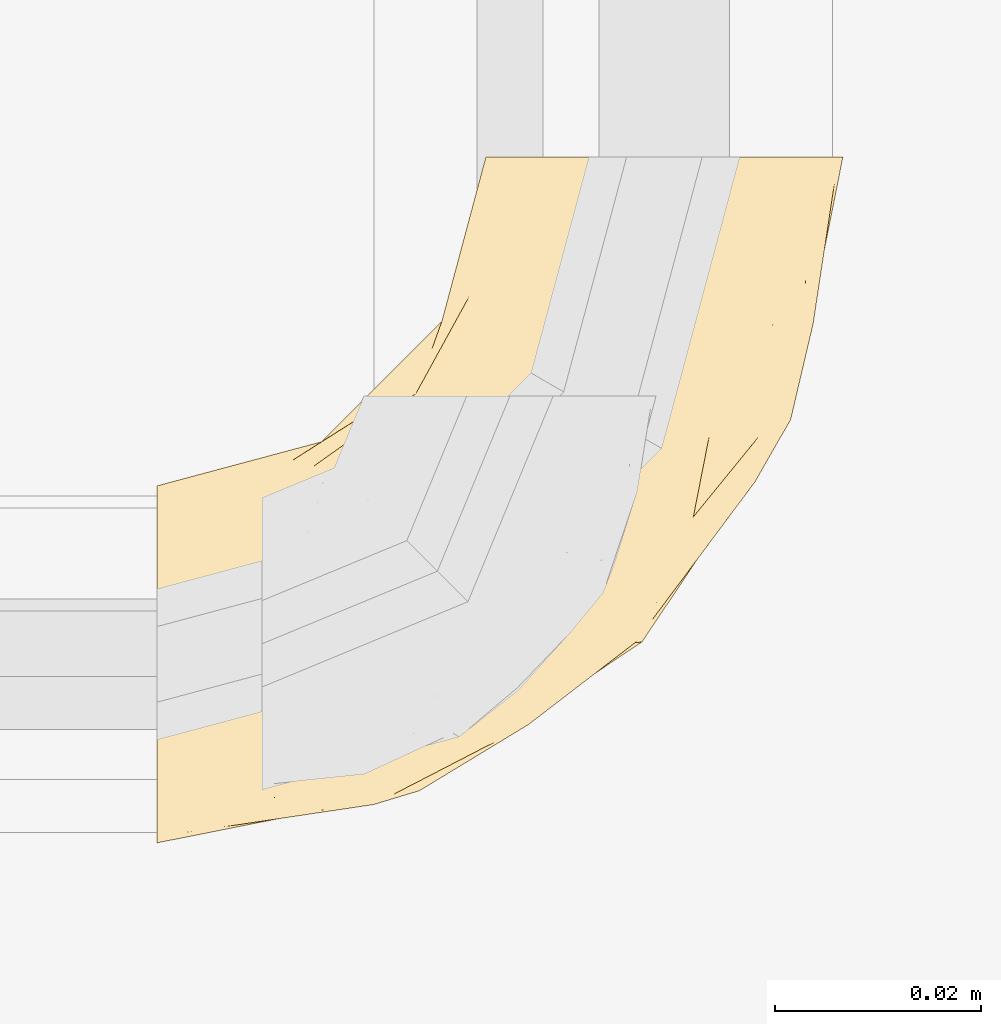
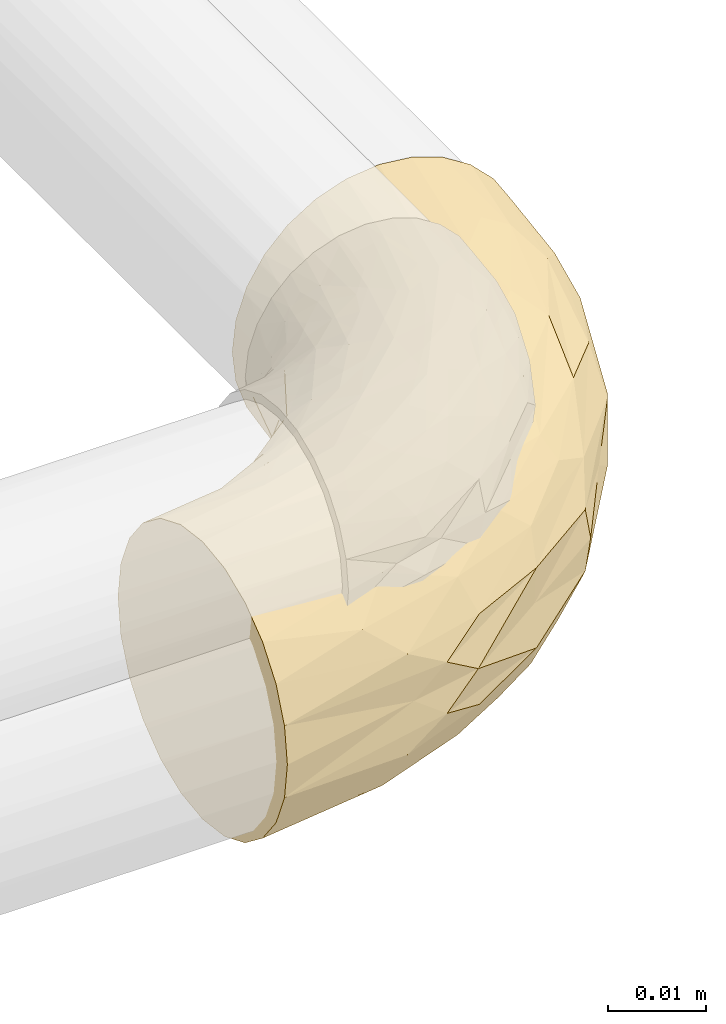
# One storey, part 7 of 32: 1 covering.
"""IFC2X3 building model written with IfcOpenShell, lengths in metres."""

from ifc_helpers import new_model, entity, si_unit, converted_unit, derived_unit, direction, frame, origin, place, context, subcontext, project, spatial, faceted_brep, material, type_object, element, save


model = new_model("IFC2X3")

# Units and contexts
model_context = context("Model", 3, precision=1e-05, world=origin(), true_north=direction((6.123031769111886e-17, 1.0)))
body_context = subcontext(model_context, "Body", "Model", "MODEL_VIEW")
ifc_project = project(units=[si_unit("LENGTHUNIT", "METRE"), si_unit("AREAUNIT", "SQUARE_METRE"), si_unit("VOLUMEUNIT", "CUBIC_METRE"), converted_unit("PLANEANGLEUNIT", "DEGREE", entity("IfcPlaneAngleMeasure", 0.017453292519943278), si_unit("PLANEANGLEUNIT", "RADIAN"), dimensions=[0, 0, 0, 0, 0, 0, 0]), si_unit("MASSUNIT", "GRAM", prefix="KILO"), derived_unit("MASSDENSITYUNIT", [(si_unit("MASSUNIT", "GRAM", prefix="KILO"), 1), (si_unit("LENGTHUNIT", "METRE"), -3)]), derived_unit("IONCONCENTRATIONUNIT", [(si_unit("MASSUNIT", "GRAM", prefix="KILO"), 1), (si_unit("LENGTHUNIT", "METRE"), -3)]), derived_unit("MOMENTOFINERTIAUNIT", [(si_unit("LENGTHUNIT", "METRE"), 4)]), si_unit("TIMEUNIT", "SECOND"), si_unit("FREQUENCYUNIT", "HERTZ"), si_unit("THERMODYNAMICTEMPERATUREUNIT", "DEGREE_CELSIUS"), derived_unit("THERMALTRANSMITTANCEUNIT", [(si_unit("MASSUNIT", "GRAM", prefix="KILO"), 1), (si_unit("THERMODYNAMICTEMPERATUREUNIT", "KELVIN"), -1), (si_unit("TIMEUNIT", "SECOND"), -3)]), derived_unit("THERMALCONDUCTANCEUNIT", [(si_unit("MASSUNIT", "GRAM", prefix="KILO"), 1), (si_unit("THERMODYNAMICTEMPERATUREUNIT", "KELVIN"), -1), (si_unit("TIMEUNIT", "SECOND"), -3), (si_unit("LENGTHUNIT", "METRE"), 1)]), derived_unit("VOLUMETRICFLOWRATEUNIT", [(si_unit("LENGTHUNIT", "METRE", prefix="DECI"), 3), (si_unit("TIMEUNIT", "SECOND"), -1)]), derived_unit("MASSFLOWRATEUNIT", [(si_unit("MASSUNIT", "GRAM", prefix="KILO"), 1), (si_unit("TIMEUNIT", "SECOND"), -1)]), derived_unit("ROTATIONALFREQUENCYUNIT", [(si_unit("TIMEUNIT", "SECOND"), -1)]), si_unit("ELECTRICCURRENTUNIT", "AMPERE"), si_unit("ELECTRICVOLTAGEUNIT", "VOLT"), si_unit("POWERUNIT", "WATT"), si_unit("FORCEUNIT", "NEWTON", prefix="KILO"), si_unit("ILLUMINANCEUNIT", "LUX"), si_unit("LUMINOUSFLUXUNIT", "LUMEN"), si_unit("LUMINOUSINTENSITYUNIT", "CANDELA"), si_unit("ENERGYUNIT", "JOULE"), derived_unit("USERDEFINED", [(si_unit("MASSUNIT", "GRAM", prefix="KILO"), -1), (si_unit("LENGTHUNIT", "METRE"), -2), (si_unit("TIMEUNIT", "SECOND"), 3), (si_unit("LUMINOUSFLUXUNIT", "LUMEN"), 1)]), derived_unit("USERDEFINED", [(si_unit("MASSUNIT", "GRAM", prefix="KILO"), 1), (si_unit("TIMEUNIT", "SECOND"), -3), (si_unit("LENGTHUNIT", "METRE"), 3), (si_unit("ELECTRICCURRENTUNIT", "AMPERE"), -2)]), derived_unit("SOUNDPOWERUNIT", [(si_unit("MASSUNIT", "GRAM", prefix="KILO"), 1), (si_unit("TIMEUNIT", "SECOND"), -3), (si_unit("LENGTHUNIT", "METRE"), 2)]), derived_unit("SOUNDPRESSUREUNIT", [(si_unit("MASSUNIT", "GRAM", prefix="KILO"), 1), (si_unit("LENGTHUNIT", "METRE"), -1), (si_unit("TIMEUNIT", "SECOND"), -2)]), derived_unit("LINEARVELOCITYUNIT", [(si_unit("LENGTHUNIT", "METRE"), 1), (si_unit("TIMEUNIT", "SECOND"), -1)]), si_unit("PRESSUREUNIT", "PASCAL"), derived_unit("USERDEFINED", [(si_unit("MASSUNIT", "GRAM", prefix="KILO"), 1), (si_unit("LENGTHUNIT", "METRE"), -2), (si_unit("TIMEUNIT", "SECOND"), -2)]), derived_unit("LINEARFORCEUNIT", [(si_unit("MASSUNIT", "GRAM", prefix="KILO"), 1), (si_unit("TIMEUNIT", "SECOND"), -2)]), derived_unit("PLANARFORCEUNIT", [(si_unit("MASSUNIT", "GRAM", prefix="KILO"), 1), (si_unit("LENGTHUNIT", "METRE"), -1), (si_unit("TIMEUNIT", "SECOND"), -2)]), derived_unit("SPECIFICHEATCAPACITYUNIT", [(si_unit("THERMODYNAMICTEMPERATUREUNIT", "KELVIN"), -1), (si_unit("LENGTHUNIT", "METRE"), 2), (si_unit("TIMEUNIT", "SECOND"), -2)]), derived_unit("HEATFLUXDENSITYUNIT", [(si_unit("MASSUNIT", "GRAM", prefix="KILO"), 1), (si_unit("TIMEUNIT", "SECOND"), -3)]), derived_unit("HEATINGVALUEUNIT", [(si_unit("LENGTHUNIT", "METRE"), 2), (si_unit("TIMEUNIT", "SECOND"), -2)]), derived_unit("VAPORPERMEABILITYUNIT", [(si_unit("LENGTHUNIT", "METRE"), -1), (si_unit("TIMEUNIT", "SECOND"), 1)]), derived_unit("DYNAMICVISCOSITYUNIT", [(si_unit("MASSUNIT", "GRAM", prefix="KILO"), 1), (si_unit("TIMEUNIT", "SECOND"), -1), (si_unit("LENGTHUNIT", "METRE"), -1)]), derived_unit("THERMALEXPANSIONCOEFFICIENTUNIT", [(si_unit("THERMODYNAMICTEMPERATUREUNIT", "KELVIN"), -1)]), derived_unit("MODULUSOFELASTICITYUNIT", [(si_unit("MASSUNIT", "GRAM", prefix="KILO"), 1), (si_unit("LENGTHUNIT", "METRE"), -1), (si_unit("TIMEUNIT", "SECOND"), -2)]), derived_unit("ISOTHERMALMOISTURECAPACITYUNIT", [(si_unit("MASSUNIT", "GRAM", prefix="KILO"), -1), (si_unit("LENGTHUNIT", "METRE"), 3)]), derived_unit("MOISTUREDIFFUSIVITYUNIT", [(si_unit("TIMEUNIT", "SECOND"), -1), (si_unit("LENGTHUNIT", "METRE"), 2)]), derived_unit("MASSPERLENGTHUNIT", [(si_unit("MASSUNIT", "GRAM", prefix="KILO"), 1), (si_unit("LENGTHUNIT", "METRE"), -1)]), derived_unit("THERMALRESISTANCEUNIT", [(si_unit("MASSUNIT", "GRAM", prefix="KILO"), -1), (si_unit("TIMEUNIT", "SECOND"), 3), (si_unit("THERMODYNAMICTEMPERATUREUNIT", "KELVIN"), 1)]), derived_unit("ACCELERATIONUNIT", [(si_unit("LENGTHUNIT", "METRE"), 1), (si_unit("TIMEUNIT", "SECOND"), -2)]), derived_unit("ANGULARVELOCITYUNIT", [(si_unit("TIMEUNIT", "SECOND"), -1), (si_unit("PLANEANGLEUNIT", "RADIAN"), 1)]), derived_unit("LINEARSTIFFNESSUNIT", [(si_unit("MASSUNIT", "GRAM", prefix="KILO"), 1), (si_unit("TIMEUNIT", "SECOND"), -2)]), derived_unit("WARPINGCONSTANTUNIT", [(si_unit("LENGTHUNIT", "METRE"), 6)]), derived_unit("LINEARMOMENTUNIT", [(si_unit("MASSUNIT", "GRAM", prefix="KILO"), 1), (si_unit("LENGTHUNIT", "METRE"), 1), (si_unit("TIMEUNIT", "SECOND"), -2)]), derived_unit("TORQUEUNIT", [(si_unit("MASSUNIT", "GRAM", prefix="KILO"), 1), (si_unit("LENGTHUNIT", "METRE"), 2), (si_unit("TIMEUNIT", "SECOND"), -2)])], contexts=[model_context])

# Site, building, storey
site_placement = place(None, origin())
site = spatial("IfcSite", under=ifc_project, at=site_placement, Name="Default", CompositionType="ELEMENT")
building_placement = place(site_placement, origin())
building = spatial("IfcBuilding", under=site, at=building_placement, CompositionType="ELEMENT")
storey_placement = place(building_placement, origin())
storey = spatial("IfcBuildingStorey", under=building, at=storey_placement, Name="Niveau 0", CompositionType="ELEMENT", Elevation=-1.949160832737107e-14)

# Covering
ifc_material = material(Name="Matériau du rendu 255-255-255")
covering_type = type_object("IfcCoveringType", Name="Isolation des canalisations:Par défaut", PredefinedType="INSULATION")
covering_placement = place(storey_placement, frame((-13.611196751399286, 1.3561078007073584, -0.433945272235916)))
element("IfcCovering", 1, at=covering_placement, inside=storey, type_object=covering_type, material=ifc_material, Name="Isolation des canalisations:Par défaut", ObjectType="Isolation des canalisations:Par défaut", PredefinedType="INSULATION", context=body_context, shape_type="Brep", body=[
    faceted_brep([(0.050895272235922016, 0.06824527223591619, 0.03629527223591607), (0.054757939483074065, 0.06824527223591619, 0.0358598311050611), (0.05842589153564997, 0.06824527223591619, 0.034575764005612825), (0.06171546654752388, 0.06824527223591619, 0.03250793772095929), (0.06446206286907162, 0.06824527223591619, 0.029760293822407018), (0.06652829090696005, 0.06824527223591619, 0.02647064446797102), (0.06781077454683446, 0.06824527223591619, 0.02280380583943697), (0.0682452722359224, 0.06824527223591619, 0.018945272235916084), (0.06780983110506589, 0.06824527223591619, 0.015082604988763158), (0.06652576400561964, 0.06824527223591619, 0.011414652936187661), (0.06445793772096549, 0.06824527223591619, 0.008125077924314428), (0.06171029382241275, 0.06824527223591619, 0.005378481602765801), (0.058420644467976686, 0.06824527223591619, 0.0033122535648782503), (0.05475380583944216, 0.06824527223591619, 0.0020297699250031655), (0.050895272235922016, 0.06824527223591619, 0.0015952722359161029), (0.04703260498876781, 0.06824527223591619, 0.0020307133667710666), (0.04336465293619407, 0.06824527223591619, 0.003314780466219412), (0.04007507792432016, 0.06824527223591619, 0.0053826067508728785), (0.03732848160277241, 0.06824527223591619, 0.008130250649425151), (0.03526225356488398, 0.06824527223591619, 0.011419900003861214), (0.033979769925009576, 0.06824527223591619, 0.015086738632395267), (0.03354527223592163, 0.06824527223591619, 0.01894527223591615), (0.03398071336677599, 0.06824527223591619, 0.022807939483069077), (0.0352647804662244, 0.06824527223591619, 0.026475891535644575), (0.037332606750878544, 0.06824527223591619, 0.029765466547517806), (0.04008025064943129, 0.06824527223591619, 0.03251206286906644), (0.043369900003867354, 0.06824527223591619, 0.03457829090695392), (0.047036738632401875, 0.06824527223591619, 0.035860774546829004), (0.001595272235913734, 0.03570408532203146, 0.014454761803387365), (0.001595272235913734, 0.033970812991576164, 0.010270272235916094), (0.001595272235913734, 0.03121357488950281, 0.006676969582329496), (0.001595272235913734, 0.02762027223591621, 0.0039197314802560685), (0.001595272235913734, 0.023435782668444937, 0.00218645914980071), (0.001595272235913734, 0.018945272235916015, 0.0015952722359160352), (0.001595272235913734, 0.014454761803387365, 0.00218645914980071), (0.001595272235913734, 0.010270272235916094, 0.0039197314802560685), (0.001595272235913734, 0.006676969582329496, 0.006676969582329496), (0.001595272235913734, 0.003919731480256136, 0.010270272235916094), (0.001595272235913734, 0.0021864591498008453, 0.014454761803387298), (0.001595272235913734, 0.0015952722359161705, 0.018945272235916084), (0.001595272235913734, 0.0021864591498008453, 0.023435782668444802), (0.001595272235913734, 0.003919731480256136, 0.027620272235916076), (0.001595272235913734, 0.006676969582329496, 0.031213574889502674), (0.001595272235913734, 0.010270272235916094, 0.03397081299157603), (0.001595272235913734, 0.014454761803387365, 0.03570408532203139), (0.001595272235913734, 0.018945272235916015, 0.03629527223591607), (0.001595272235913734, 0.023435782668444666, 0.03570408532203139), (0.001595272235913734, 0.02762027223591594, 0.0339708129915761), (0.001595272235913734, 0.03121357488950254, 0.031213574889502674), (0.001595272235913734, 0.033970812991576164, 0.027620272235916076), (0.001595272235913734, 0.03570408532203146, 0.02343578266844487), (0.001595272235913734, 0.03629527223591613, 0.018945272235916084), (0.04461060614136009, 0.024367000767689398, 0.031334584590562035), (0.05520607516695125, 0.040880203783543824, 0.032451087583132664), (0.04662716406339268, 0.031240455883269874, 0.03378706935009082), (0.022635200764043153, 0.005317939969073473, 0.022149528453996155), (0.018502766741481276, 0.004958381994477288, 0.018945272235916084), (0.027101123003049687, 0.006668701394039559, 0.018945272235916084), (0.026428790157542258, 0.009728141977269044, 0.02881601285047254), (0.034746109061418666, 0.015760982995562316, 0.030682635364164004), (0.02724880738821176, 0.01420681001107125, 0.03274319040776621), (0.017647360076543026, 0.004776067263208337, 0.02524054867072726), (0.013004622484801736, 0.005987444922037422, 0.029200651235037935), (0.042951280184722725, 0.03372303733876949, 0.03568226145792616), (0.03645563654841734, 0.03338490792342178, 0.03629527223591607), (0.03141249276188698, 0.024904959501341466, 0.03597727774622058), (0.06144561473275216, 0.05201300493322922, 0.03075267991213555), (0.05371291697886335, 0.033276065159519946, 0.029890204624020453), (0.018347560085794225, 0.017585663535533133, 0.035814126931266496), (0.026339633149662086, 0.01667542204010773, 0.0343928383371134), (0.05971173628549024, 0.036692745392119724, 0.02316390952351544), (0.0653551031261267, 0.05204597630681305, 0.02435364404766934), (0.05992934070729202, 0.04090792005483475, 0.02745100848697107), (0.017676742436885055, 0.010004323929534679, 0.032262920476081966), (0.0471425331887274, 0.0493789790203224, 0.03629527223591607), (0.04179908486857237, 0.041381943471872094, 0.03629527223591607), (0.01316791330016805, 0.013063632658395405, 0.03478404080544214), (0.03768974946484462, 0.013097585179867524, 0.023959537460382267), (0.04805807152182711, 0.021058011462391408, 0.022772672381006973), (0.05009999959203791, 0.02491877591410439, 0.02624933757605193), (0.06570855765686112, 0.05549234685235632, 0.01894527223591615), (0.0383757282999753, 0.015418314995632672, 0.02754290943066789), (0.02804202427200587, 0.008103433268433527, 0.02460805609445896), (0.06459915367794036, 0.05599549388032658, 0.027861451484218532), (0.06317184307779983, 0.04273942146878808, 0.018945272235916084), (0.04921371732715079, 0.059791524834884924, 0.03629527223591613), (0.0517926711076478, 0.05151216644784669, 0.03591493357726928), (0.05932311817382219, 0.05592114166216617, 0.03331102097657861), (0.03696754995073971, 0.024527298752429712, 0.03484866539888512), (0.05614202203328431, 0.05642461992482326, 0.035026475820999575), (0.03623295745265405, 0.020046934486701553, 0.0330855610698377), (0.05241841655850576, 0.04390302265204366, 0.03479750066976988), (0.028458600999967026, 0.028041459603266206, 0.03629527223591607), (0.020461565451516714, 0.022698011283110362, 0.03629527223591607), (0.04901890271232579, 0.05881212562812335, 0.03629527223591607), (0.05594789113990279, 0.03192801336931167, 0.018945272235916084), (0.04575145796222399, 0.0225377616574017, 0.028838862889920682), (0.03791253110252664, 0.01389265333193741, 0.018945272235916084), (0.010049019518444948, 0.020626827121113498, 0.03629527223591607), (0.04872393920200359, 0.021116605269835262, 0.018945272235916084), (0.03562046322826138, 0.06012681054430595, 0.028741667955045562), (0.012762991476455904, 0.02554511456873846, 0.03550907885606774), (0.020812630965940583, 0.03816302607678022, 0.02971422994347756), (0.012286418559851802, 0.03369863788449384, 0.030278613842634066), (0.022511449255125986, 0.03585312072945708, 0.03257014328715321), (0.04260303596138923, 0.04758380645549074, 0.03596260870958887), (0.0453997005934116, 0.05793604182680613, 0.035754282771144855), (0.04014164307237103, 0.05179104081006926, 0.03464339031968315), (0.02204334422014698, 0.027448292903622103, 0.0359036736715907), (0.01760257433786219, 0.031246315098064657, 0.033786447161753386), (0.031224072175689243, 0.05558856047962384, 0.021988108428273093), (0.03344901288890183, 0.0610921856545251, 0.023813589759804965), (0.03132557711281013, 0.05996125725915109, 0.01894527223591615), (0.0342289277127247, 0.04550906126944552, 0.03344556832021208), (0.03727571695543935, 0.041544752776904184, 0.035636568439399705), (0.00888733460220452, 0.02949372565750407, 0.03321547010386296), (0.014357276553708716, 0.03852252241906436, 0.022634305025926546), (0.009879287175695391, 0.038514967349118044, 0.01894527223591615), (0.00758599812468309, 0.03659242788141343, 0.021964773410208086), (0.037997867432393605, 0.057971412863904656, 0.03195826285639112), (0.033044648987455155, 0.05019700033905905, 0.03039020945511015), (0.009229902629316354, 0.03603849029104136, 0.02515495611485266), (0.0167708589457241, 0.038175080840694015, 0.026502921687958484), (0.041766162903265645, 0.06050425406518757, 0.03413176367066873), (0.026739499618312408, 0.04525391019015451, 0.02725796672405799), (0.027451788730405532, 0.04141450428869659, 0.0314395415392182), (0.0292647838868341, 0.05227027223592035, 0.01894527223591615), (0.023249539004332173, 0.04415845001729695, 0.022825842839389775), (0.017570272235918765, 0.04057576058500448, 0.01894527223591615), (0.028875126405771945, 0.03407046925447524, 0.03537608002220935), (0.031890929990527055, 0.05464264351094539, 0.025434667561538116), (0.028265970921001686, 0.04949521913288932, 0.023656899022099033), (0.02341752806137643, 0.04642301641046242, 0.01894527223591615), (0.029179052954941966, 0.03870099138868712, 0.03385023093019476), (0.012286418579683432, 0.03369863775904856, 0.00761193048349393), (0.03561656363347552, 0.06012621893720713, 0.009154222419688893), (0.03799129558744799, 0.05796574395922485, 0.0059365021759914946), (0.0075859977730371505, 0.036592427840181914, 0.01592577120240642), (0.04259271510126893, 0.047594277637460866, 0.001930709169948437), (0.04179908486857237, 0.041381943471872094, 0.0015952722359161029), (0.03724696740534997, 0.04154972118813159, 0.002261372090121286), (0.033036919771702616, 0.05019606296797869, 0.007507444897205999), (0.027451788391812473, 0.04141450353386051, 0.006451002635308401), (0.029189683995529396, 0.03870907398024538, 0.004039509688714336), (0.022521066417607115, 0.035853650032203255, 0.005316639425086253), (0.03344737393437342, 0.06109515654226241, 0.014084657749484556), (0.028875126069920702, 0.03407046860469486, 0.0025144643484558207), (0.022043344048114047, 0.027448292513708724, 0.0019868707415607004), (0.01760257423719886, 0.03124631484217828, 0.004104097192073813), (0.012762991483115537, 0.02554511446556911, 0.002381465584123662), (0.010049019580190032, 0.020626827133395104, 0.0015952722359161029), (0.04175980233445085, 0.06049677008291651, 0.0037614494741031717), (0.04539407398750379, 0.057931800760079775, 0.002137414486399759), (0.04013105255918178, 0.05177761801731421, 0.0032492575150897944), (0.00922990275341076, 0.03603849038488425, 0.012735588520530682), (0.008887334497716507, 0.02949372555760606, 0.004675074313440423), (0.03422554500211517, 0.04552472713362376, 0.004452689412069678), (0.014357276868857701, 0.03852252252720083, 0.015256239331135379), (0.02825837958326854, 0.04948512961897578, 0.014235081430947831), (0.026712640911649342, 0.04523640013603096, 0.010647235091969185), (0.023230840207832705, 0.04414337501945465, 0.015070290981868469), (0.031223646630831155, 0.05558905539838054, 0.01590572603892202), (0.03189268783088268, 0.05465211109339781, 0.012461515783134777), (0.016770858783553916, 0.038175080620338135, 0.01138762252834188), (0.04921371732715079, 0.05979152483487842, 0.0015952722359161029), (0.04901890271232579, 0.05881212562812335, 0.0015952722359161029), (0.0471425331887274, 0.0493789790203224, 0.0015952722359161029), (0.020461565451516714, 0.022698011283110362, 0.0015952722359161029), (0.028458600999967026, 0.028041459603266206, 0.0015952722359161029), (0.020805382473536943, 0.03815555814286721, 0.008173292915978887), (0.03645563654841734, 0.03338490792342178, 0.0015952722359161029), (0.027228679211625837, 0.014201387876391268, 0.0051445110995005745), (0.0347636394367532, 0.01576489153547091, 0.007214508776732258), (0.02642879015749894, 0.009728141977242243, 0.009074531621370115), (0.02263520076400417, 0.0053179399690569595, 0.0157410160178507), (0.028042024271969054, 0.008103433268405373, 0.013282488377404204), (0.037689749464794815, 0.013097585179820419, 0.013931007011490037), (0.05992974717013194, 0.040915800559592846, 0.010434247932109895), (0.06535408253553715, 0.05204814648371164, 0.013532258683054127), (0.05970534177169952, 0.03668245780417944, 0.014723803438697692), (0.05520108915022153, 0.04088029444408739, 0.005435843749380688), (0.046606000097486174, 0.0312294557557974, 0.004097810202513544), (0.05242173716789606, 0.04392259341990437, 0.0030906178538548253), (0.04297076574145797, 0.033757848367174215, 0.0022062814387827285), (0.018340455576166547, 0.017583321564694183, 0.0020764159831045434), (0.02633963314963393, 0.016675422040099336, 0.0034977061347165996), (0.036215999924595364, 0.02002725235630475, 0.004809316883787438), (0.013166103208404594, 0.013061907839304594, 0.0031070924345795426), (0.017647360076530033, 0.004776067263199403, 0.012649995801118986), (0.06459558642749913, 0.05599323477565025, 0.010023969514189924), (0.01300462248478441, 0.005987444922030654, 0.008689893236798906), (0.03835185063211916, 0.01539871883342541, 0.0103519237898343), (0.017676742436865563, 0.010004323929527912, 0.005627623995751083), (0.05931818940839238, 0.055922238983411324, 0.004576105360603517), (0.06144180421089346, 0.05201579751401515, 0.0071331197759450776), (0.05178953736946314, 0.05151520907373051, 0.0019747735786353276), (0.057836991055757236, 0.04090335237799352, 0.007727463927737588), (0.04461060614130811, 0.02436700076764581, 0.006555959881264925), (0.05616681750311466, 0.056683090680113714, 0.002851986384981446), (0.04806993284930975, 0.021070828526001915, 0.015114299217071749), (0.05009283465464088, 0.024916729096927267, 0.011632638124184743), (0.031417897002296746, 0.024899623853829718, 0.0019147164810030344), (0.03701879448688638, 0.024551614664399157, 0.0030477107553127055), (0.04571403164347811, 0.022503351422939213, 0.00904990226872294), (0.05365558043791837, 0.03153712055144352, 0.009268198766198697)], [[[0, 1, 2, 3, 4, 5, 6, 7, 8, 9, 10, 11, 12, 13, 14, 15, 16, 17, 18, 19, 20, 21, 22, 23, 24, 25, 26, 27]], [[28, 29, 30, 31, 32, 33, 34, 35, 36, 37, 38, 39, 40, 41, 42, 43, 44, 45, 46, 47, 48, 49, 50, 51]], [[52, 53, 54]], [[55, 56, 57]], [[58, 59, 60]], [[61, 58, 62]], [[63, 64, 65]], [[61, 41, 40]], [[66, 53, 67]], [[68, 69, 65]], [[70, 71, 72]], [[62, 73, 42]], [[63, 74, 75, 64]], [[45, 44, 68]], [[69, 68, 76]], [[77, 78, 79]], [[42, 73, 43]], [[80, 7, 6]], [[58, 81, 59]], [[61, 55, 82]], [[71, 5, 83]], [[84, 71, 70]], [[83, 5, 4]], [[6, 71, 80]], [[71, 84, 80]], [[77, 55, 57]], [[5, 71, 6]], [[3, 66, 4]], [[1, 0, 85]], [[63, 86, 74]], [[66, 87, 53]], [[62, 42, 41]], [[63, 65, 88]], [[1, 86, 89]], [[40, 56, 55]], [[73, 60, 76]], [[83, 72, 71]], [[90, 59, 52]], [[40, 55, 61]], [[87, 66, 3]], [[4, 66, 83]], [[87, 3, 2]], [[72, 83, 66]], [[91, 89, 86]], [[53, 87, 91]], [[54, 53, 91]], [[67, 53, 52]], [[63, 54, 91]], [[54, 88, 90]], [[91, 87, 89]], [[65, 64, 92, 93]], [[86, 63, 91]], [[86, 85, 94, 74]], [[1, 85, 86]], [[70, 72, 79]], [[78, 95, 70]], [[67, 79, 72]], [[59, 81, 96]], [[40, 39, 56]], [[77, 57, 97]], [[82, 55, 77]], [[87, 2, 89]], [[1, 89, 2]], [[81, 82, 77]], [[58, 61, 82]], [[68, 65, 93]], [[88, 65, 69]], [[68, 93, 98, 45]], [[76, 68, 44]], [[90, 88, 69]], [[54, 63, 88]], [[60, 90, 69]], [[54, 90, 52]], [[59, 90, 60]], [[82, 81, 58]], [[77, 79, 81]], [[96, 81, 79]], [[44, 43, 76]], [[73, 76, 43]], [[61, 62, 41]], [[73, 62, 58]], [[76, 60, 69]], [[60, 73, 58]], [[70, 79, 78]], [[95, 84, 70]], [[67, 52, 96]], [[78, 97, 99]], [[66, 67, 72]], [[97, 78, 77]], [[78, 99, 95]], [[67, 96, 79]], [[59, 96, 52]], [[100, 24, 23]], [[93, 101, 98]], [[102, 103, 104]], [[98, 101, 46]], [[105, 106, 107]], [[108, 109, 101]], [[110, 111, 112]], [[92, 108, 93]], [[113, 114, 107]], [[47, 115, 48]], [[116, 117, 118]], [[49, 48, 103]], [[119, 100, 120]], [[100, 119, 24]], [[121, 122, 116]], [[119, 120, 113]], [[103, 122, 121]], [[115, 103, 48]], [[119, 107, 123]], [[123, 26, 25]], [[118, 51, 50]], [[26, 106, 27]], [[106, 74, 94]], [[46, 101, 47]], [[115, 101, 109]], [[123, 106, 26]], [[124, 125, 120]], [[22, 21, 112]], [[119, 25, 24]], [[110, 112, 126]], [[111, 23, 22]], [[114, 75, 105]], [[116, 127, 128]], [[122, 127, 116]], [[64, 129, 92]], [[106, 94, 27]], [[111, 100, 23]], [[109, 129, 104]], [[130, 124, 120]], [[130, 120, 100]], [[120, 125, 113]], [[130, 110, 131]], [[102, 124, 122]], [[121, 118, 50]], [[27, 94, 85, 0]], [[128, 117, 116]], [[127, 122, 124]], [[131, 124, 130]], [[131, 132, 127]], [[119, 123, 25]], [[106, 123, 107]], [[108, 101, 93]], [[113, 107, 119]], [[129, 133, 104]], [[125, 133, 113]], [[113, 133, 114]], [[129, 64, 114]], [[75, 74, 105]], [[92, 129, 108]], [[109, 108, 129]], [[46, 45, 98]], [[111, 110, 130]], [[126, 131, 110]], [[124, 131, 127]], [[111, 130, 100]], [[112, 111, 22]], [[50, 49, 121]], [[103, 121, 49]], [[101, 115, 47]], [[103, 115, 109]], [[116, 118, 121]], [[51, 118, 117]], [[133, 125, 104]], [[114, 133, 129]], [[102, 104, 125]], [[103, 109, 104]], [[124, 102, 125]], [[103, 102, 122]], [[114, 64, 75]], [[106, 105, 74]], [[107, 114, 105]], [[132, 131, 126]], [[132, 128, 127]], [[30, 29, 134]], [[135, 18, 136]], [[51, 117, 137]], [[138, 139, 140]], [[141, 135, 136]], [[142, 143, 144]], [[145, 112, 20]], [[146, 147, 148]], [[149, 150, 32]], [[151, 152, 153]], [[134, 29, 154]], [[155, 31, 30]], [[18, 135, 19]], [[149, 32, 31]], [[156, 141, 136]], [[157, 117, 128]], [[158, 159, 160]], [[126, 112, 161]], [[161, 145, 162]], [[155, 149, 31]], [[154, 28, 137]], [[17, 151, 136]], [[18, 17, 136]], [[145, 19, 135]], [[135, 141, 162]], [[17, 16, 151]], [[16, 15, 152]], [[146, 144, 143]], [[143, 140, 146]], [[159, 163, 160]], [[15, 14, 164, 165]], [[15, 165, 152]], [[138, 152, 166]], [[141, 159, 162]], [[155, 134, 148]], [[112, 21, 20]], [[167, 147, 168]], [[144, 169, 142]], [[145, 135, 162]], [[156, 136, 153]], [[141, 142, 159]], [[169, 159, 142]], [[157, 160, 163]], [[157, 128, 160]], [[166, 152, 165]], [[154, 137, 157]], [[157, 163, 154]], [[158, 132, 126]], [[126, 161, 158]], [[152, 151, 16]], [[136, 151, 153]], [[168, 146, 170]], [[149, 147, 167]], [[156, 142, 141]], [[140, 156, 153]], [[143, 142, 156]], [[140, 153, 138]], [[170, 146, 140]], [[148, 147, 149]], [[146, 168, 147]], [[150, 149, 167]], [[150, 33, 32]], [[158, 161, 162]], [[159, 158, 162]], [[160, 132, 158]], [[112, 145, 161]], [[19, 145, 20]], [[134, 154, 163]], [[29, 28, 154]], [[134, 155, 30]], [[149, 155, 148]], [[51, 137, 28]], [[157, 137, 117]], [[140, 143, 156]], [[144, 146, 148]], [[148, 134, 144]], [[169, 134, 163]], [[134, 169, 144]], [[159, 169, 163]], [[139, 138, 166]], [[139, 170, 140]], [[152, 138, 153]], [[160, 128, 132]], [[171, 172, 173]], [[174, 175, 176]], [[177, 178, 179]], [[180, 181, 182]], [[183, 182, 181]], [[184, 33, 150, 167]], [[171, 185, 186]], [[184, 187, 34]], [[174, 38, 188]], [[177, 189, 178]], [[36, 190, 37]], [[176, 175, 191]], [[192, 36, 35]], [[37, 190, 188]], [[174, 176, 57]], [[193, 11, 194]], [[183, 166, 195]], [[175, 174, 188]], [[195, 166, 165, 164]], [[56, 174, 57]], [[10, 194, 11]], [[196, 197, 180]], [[179, 178, 84]], [[12, 193, 198]], [[11, 193, 12]], [[190, 192, 173]], [[179, 95, 199]], [[189, 9, 178]], [[193, 180, 182]], [[9, 189, 10]], [[8, 80, 178]], [[177, 179, 200]], [[201, 170, 183]], [[177, 194, 189]], [[37, 188, 38]], [[178, 9, 8]], [[194, 177, 196]], [[164, 14, 13]], [[187, 192, 35]], [[167, 201, 184]], [[194, 10, 189]], [[180, 193, 194]], [[198, 182, 195]], [[196, 180, 194]], [[181, 180, 197]], [[185, 202, 186]], [[201, 167, 168, 170]], [[201, 202, 185]], [[183, 170, 139, 166]], [[195, 182, 183]], [[164, 13, 195]], [[198, 13, 12]], [[199, 95, 99]], [[200, 199, 176]], [[191, 173, 172]], [[200, 203, 204]], [[174, 56, 38]], [[56, 39, 38]], [[199, 97, 176]], [[182, 198, 193]], [[13, 198, 195]], [[188, 173, 175]], [[191, 175, 173]], [[202, 201, 183]], [[184, 201, 185]], [[187, 184, 185]], [[33, 184, 34]], [[183, 181, 202]], [[186, 181, 197]], [[181, 186, 202]], [[186, 197, 172]], [[191, 203, 200]], [[171, 173, 192]], [[203, 172, 197]], [[200, 176, 191]], [[187, 185, 171]], [[35, 34, 187]], [[192, 190, 36]], [[188, 190, 173]], [[172, 171, 186]], [[187, 171, 192]], [[179, 84, 95]], [[80, 8, 7]], [[80, 84, 178]], [[97, 57, 176]], [[177, 200, 204]], [[179, 199, 200]], [[97, 199, 99]], [[172, 203, 191]], [[204, 197, 196]], [[197, 204, 203]], [[177, 204, 196]]]),
])

save(model, "model.ifc")
